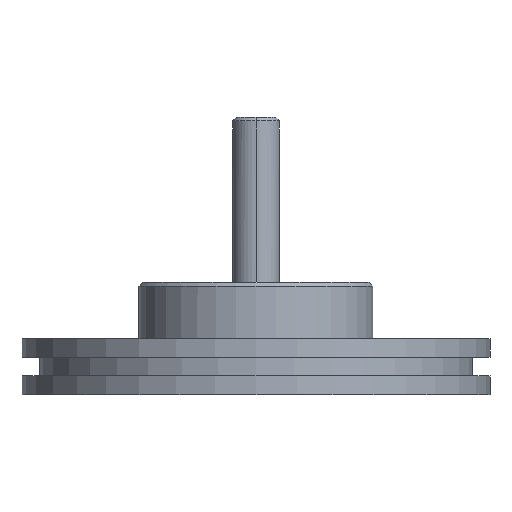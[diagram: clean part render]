
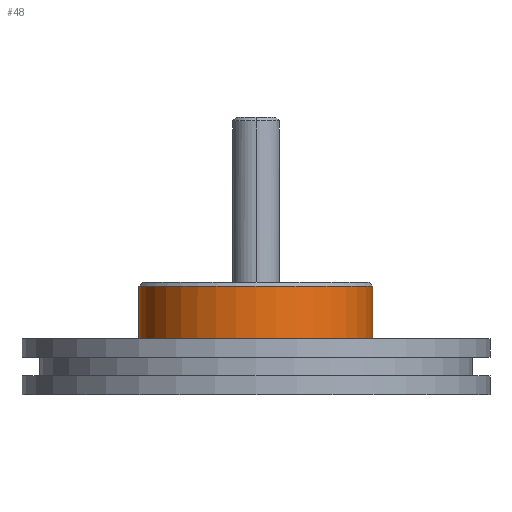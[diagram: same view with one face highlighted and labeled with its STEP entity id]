
A CAD part, front view. The second image highlights one B-rep face of the part: STEP entity #48.
In plain terms, the highlighted cylindrical face has radius 15.875 mm (diameter 31.75 mm), a partial arc.
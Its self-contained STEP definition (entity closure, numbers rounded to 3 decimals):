
#48 = ADVANCED_FACE ( 'NONE', ( #5975 ), #2093, .T. ) ;
#369 = DIRECTION ( 'NONE',  ( 1., 0., 0. ) ) ;
#531 = DIRECTION ( 'NONE',  ( 0., 0., -1. ) ) ;
#737 = VERTEX_POINT ( 'NONE', #6715 ) ;
#831 = DIRECTION ( 'NONE',  ( 0., 0., -1. ) ) ;
#936 = ORIENTED_EDGE ( 'NONE', *, *, #3996, .F. ) ;
#1125 = VERTEX_POINT ( 'NONE', #4422 ) ;
#1128 = CARTESIAN_POINT ( 'NONE',  ( -15.875, 0., 13.47 ) ) ;
#1163 = CARTESIAN_POINT ( 'NONE',  ( 0., 0., 13.47 ) ) ;
#1755 = ORIENTED_EDGE ( 'NONE', *, *, #2108, .T. ) ;
#2093 = CYLINDRICAL_SURFACE ( 'NONE', #6808, 15.875 ) ;
#2108 = EDGE_CURVE ( 'NONE', #1125, #737, #7207, .T. ) ;
#2644 = DIRECTION ( 'NONE',  ( 0., 0., -1. ) ) ;
#2916 = DIRECTION ( 'NONE',  ( 0., 0., 1. ) ) ;
#3272 = CARTESIAN_POINT ( 'NONE',  ( 15.875, 0., 13.47 ) ) ;
#3543 = VERTEX_POINT ( 'NONE', #3272 ) ;
#3547 = EDGE_CURVE ( 'NONE', #3543, #5294, #6020, .T. ) ;
#3559 = CARTESIAN_POINT ( 'NONE',  ( 0., 0., 13.97 ) ) ;
#3736 = ORIENTED_EDGE ( 'NONE', *, *, #5363, .T. ) ;
#3941 = AXIS2_PLACEMENT_3D ( 'NONE', #1163, #7048, #369 ) ;
#3996 = EDGE_CURVE ( 'NONE', #3543, #737, #5927, .T. ) ;
#4034 = DIRECTION ( 'NONE',  ( -1., 0., 0. ) ) ;
#4422 = CARTESIAN_POINT ( 'NONE',  ( -15.875, 0., 6.35 ) ) ;
#4611 = ORIENTED_EDGE ( 'NONE', *, *, #3547, .T. ) ;
#5294 = VERTEX_POINT ( 'NONE', #1128 ) ;
#5363 = EDGE_CURVE ( 'NONE', #5294, #1125, #6232, .T. ) ;
#5554 = CARTESIAN_POINT ( 'NONE',  ( 0., 0., 6.35 ) ) ;
#5580 = AXIS2_PLACEMENT_3D ( 'NONE', #5554, #2916, #7270 ) ;
#5808 = CARTESIAN_POINT ( 'NONE',  ( 15.875, 0., 13.97 ) ) ;
#5927 = LINE ( 'NONE', #5808, #7599 ) ;
#5975 = FACE_OUTER_BOUND ( 'NONE', #6372, .T. ) ;
#6020 = CIRCLE ( 'NONE', #3941, 15.875 ) ;
#6030 = VECTOR ( 'NONE', #531, 1000. ) ;
#6232 = LINE ( 'NONE', #7415, #6030 ) ;
#6372 = EDGE_LOOP ( 'NONE', ( #936, #4611, #3736, #1755 ) ) ;
#6715 = CARTESIAN_POINT ( 'NONE',  ( 15.875, 0., 6.35 ) ) ;
#6808 = AXIS2_PLACEMENT_3D ( 'NONE', #3559, #2644, #4034 ) ;
#7048 = DIRECTION ( 'NONE',  ( 0., 0., -1. ) ) ;
#7207 = CIRCLE ( 'NONE', #5580, 15.875 ) ;
#7270 = DIRECTION ( 'NONE',  ( 1., 0., 0. ) ) ;
#7415 = CARTESIAN_POINT ( 'NONE',  ( -15.875, 0., 13.97 ) ) ;
#7599 = VECTOR ( 'NONE', #831, 1000. ) ;
